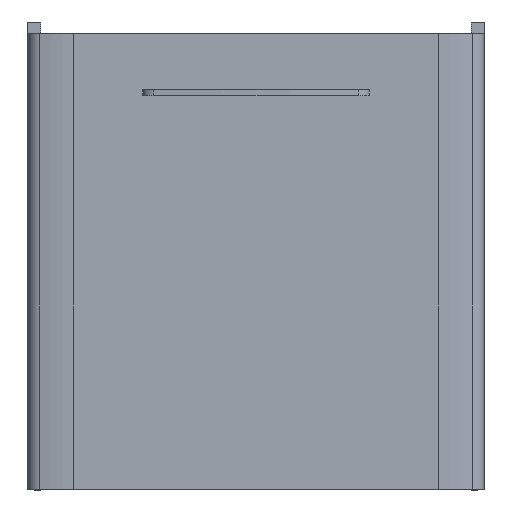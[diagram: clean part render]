
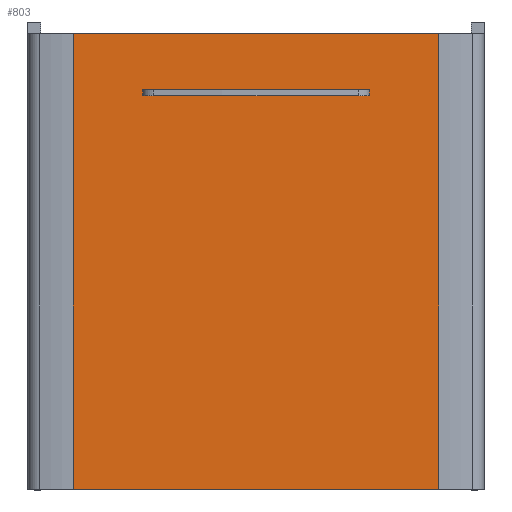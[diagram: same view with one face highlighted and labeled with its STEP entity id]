
A CAD part, front view. The second image highlights one B-rep face of the part: STEP entity #803.
In plain terms, the highlighted planar face has unit normal (0, -1, 0).
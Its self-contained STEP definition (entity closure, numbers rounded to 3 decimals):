
#17=FACE_BOUND('',#98,.T.);
#52=FACE_OUTER_BOUND('',#97,.T.);
#97=EDGE_LOOP('',(#568,#569,#570,#571));
#98=EDGE_LOOP('',(#572,#573,#574,#575));
#139=LINE('',#1145,#239);
#147=LINE('',#1172,#247);
#148=LINE('',#1174,#248);
#149=LINE('',#1176,#249);
#150=LINE('',#1182,#250);
#153=LINE('',#1194,#253);
#154=LINE('',#1196,#254);
#155=LINE('',#1197,#255);
#239=VECTOR('',#924,10.);
#247=VECTOR('',#952,10.);
#248=VECTOR('',#955,10.);
#249=VECTOR('',#958,10.);
#250=VECTOR('',#963,10.);
#253=VECTOR('',#976,10.);
#254=VECTOR('',#977,10.);
#255=VECTOR('',#978,10.);
#338=VERTEX_POINT('',#1141);
#340=VERTEX_POINT('',#1144);
#348=VERTEX_POINT('',#1168);
#349=VERTEX_POINT('',#1170);
#350=VERTEX_POINT('',#1178);
#352=VERTEX_POINT('',#1181);
#356=VERTEX_POINT('',#1193);
#357=VERTEX_POINT('',#1195);
#415=EDGE_CURVE('',#340,#338,#139,.T.);
#429=EDGE_CURVE('',#348,#349,#147,.T.);
#430=EDGE_CURVE('',#338,#348,#148,.T.);
#431=EDGE_CURVE('',#349,#340,#149,.T.);
#433=EDGE_CURVE('',#350,#352,#150,.T.);
#439=EDGE_CURVE('',#356,#350,#153,.T.);
#440=EDGE_CURVE('',#356,#357,#154,.T.);
#441=EDGE_CURVE('',#357,#352,#155,.T.);
#568=ORIENTED_EDGE('',*,*,#433,.F.);
#569=ORIENTED_EDGE('',*,*,#439,.F.);
#570=ORIENTED_EDGE('',*,*,#440,.T.);
#571=ORIENTED_EDGE('',*,*,#441,.T.);
#572=ORIENTED_EDGE('',*,*,#429,.T.);
#573=ORIENTED_EDGE('',*,*,#431,.T.);
#574=ORIENTED_EDGE('',*,*,#415,.T.);
#575=ORIENTED_EDGE('',*,*,#430,.T.);
#760=PLANE('',#879);
#803=ADVANCED_FACE('',(#52,#17),#760,.T.);
#879=AXIS2_PLACEMENT_3D('',#1192,#974,#975);
#924=DIRECTION('',(0.,0.,-1.));
#952=DIRECTION('',(0.,0.,1.));
#955=DIRECTION('',(-1.,0.,0.));
#958=DIRECTION('',(1.,0.,0.));
#963=DIRECTION('',(0.,0.,-1.));
#974=DIRECTION('center_axis',(0.,-1.,0.));
#975=DIRECTION('ref_axis',(0.,0.,-1.));
#976=DIRECTION('',(1.,0.,0.));
#977=DIRECTION('',(0.,0.,-1.));
#978=DIRECTION('',(1.,0.,0.));
#1141=CARTESIAN_POINT('',(135.,-423.,469.5));
#1144=CARTESIAN_POINT('',(135.,-423.,476.5));
#1145=CARTESIAN_POINT('',(135.,-423.,506.25));
#1168=CARTESIAN_POINT('',(-135.,-423.,469.5));
#1170=CARTESIAN_POINT('',(-135.,-423.,476.5));
#1172=CARTESIAN_POINT('',(-135.,-423.,506.25));
#1174=CARTESIAN_POINT('',(0.,-423.,469.5));
#1176=CARTESIAN_POINT('',(0.,-423.,476.5));
#1178=CARTESIAN_POINT('',(217.723,-423.,543.));
#1181=CARTESIAN_POINT('',(217.723,-423.,1.));
#1182=CARTESIAN_POINT('',(217.723,-423.,543.));
#1192=CARTESIAN_POINT('Origin',(0.,-423.,543.));
#1193=CARTESIAN_POINT('',(-217.723,-423.,543.));
#1194=CARTESIAN_POINT('',(0.,-423.,543.));
#1195=CARTESIAN_POINT('',(-217.723,-423.,1.));
#1196=CARTESIAN_POINT('',(-217.723,-423.,543.));
#1197=CARTESIAN_POINT('',(0.,-423.,1.));
